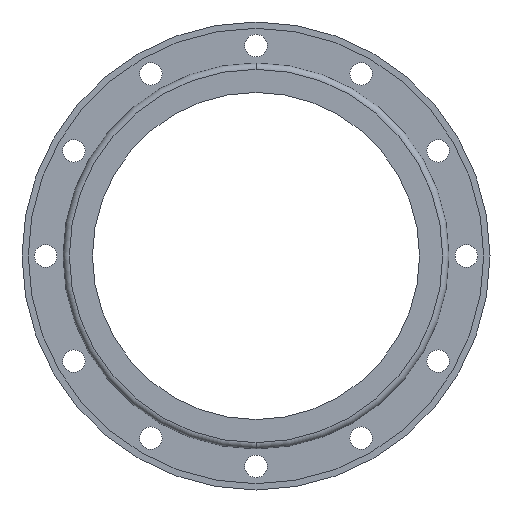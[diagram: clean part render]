
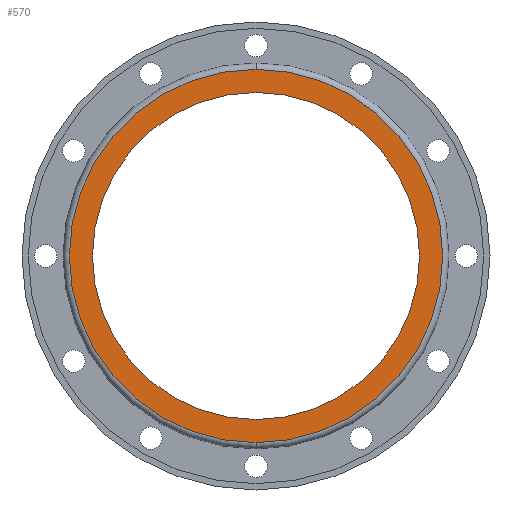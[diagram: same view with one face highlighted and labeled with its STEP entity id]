
A CAD part, front view. The second image highlights one B-rep face of the part: STEP entity #570.
In plain terms, the highlighted planar face has unit normal (0, -1, 0).
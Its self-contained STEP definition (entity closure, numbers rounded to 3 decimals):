
#15 = AXIS2_PLACEMENT_3D ( 'NONE', #30, #156, #491 ) ;
#30 = CARTESIAN_POINT ( 'NONE',  ( 0., 0., 0. ) ) ;
#145 = PLANE ( 'NONE',  #1191 ) ;
#156 = DIRECTION ( 'NONE',  ( 0., 1., 0. ) ) ;
#219 = CIRCLE ( 'NONE', #1052, 155.5 ) ;
#225 = VERTEX_POINT ( 'NONE', #1154 ) ;
#266 = CARTESIAN_POINT ( 'NONE',  ( 0., 0., 0. ) ) ;
#406 = CARTESIAN_POINT ( 'NONE',  ( 0., 0., 0. ) ) ;
#476 = ORIENTED_EDGE ( 'NONE', *, *, #1077, .T. ) ;
#491 = DIRECTION ( 'NONE',  ( 0., 0., 1. ) ) ;
#558 = VERTEX_POINT ( 'NONE', #1304 ) ;
#570 = ADVANCED_FACE ( 'NONE', ( #744, #719 ), #145, .T. ) ;
#572 = CARTESIAN_POINT ( 'NONE',  ( 0., 0., 155.5 ) ) ;
#683 = CIRCLE ( 'NONE', #866, 177.5 ) ;
#693 = CIRCLE ( 'NONE', #15, 177.5 ) ;
#694 = ORIENTED_EDGE ( 'NONE', *, *, #766, .F. ) ;
#719 = FACE_OUTER_BOUND ( 'NONE', #1262, .T. ) ;
#744 = FACE_BOUND ( 'NONE', #989, .T. ) ;
#766 = EDGE_CURVE ( 'NONE', #225, #1507, #683, .T. ) ;
#847 = DIRECTION ( 'NONE',  ( 0., 1., 0. ) ) ;
#866 = AXIS2_PLACEMENT_3D ( 'NONE', #1213, #847, #1066 ) ;
#877 = ORIENTED_EDGE ( 'NONE', *, *, #959, .T. ) ;
#954 = DIRECTION ( 'NONE',  ( 0., 1., 0. ) ) ;
#959 = EDGE_CURVE ( 'NONE', #1110, #558, #979, .T. ) ;
#967 = DIRECTION ( 'NONE',  ( 0., -1., 0. ) ) ;
#979 = CIRCLE ( 'NONE', #1224, 155.5 ) ;
#989 = EDGE_LOOP ( 'NONE', ( #877, #476 ) ) ;
#1052 = AXIS2_PLACEMENT_3D ( 'NONE', #266, #954, #1516 ) ;
#1066 = DIRECTION ( 'NONE',  ( 0., 0., 1. ) ) ;
#1077 = EDGE_CURVE ( 'NONE', #558, #1110, #219, .T. ) ;
#1110 = VERTEX_POINT ( 'NONE', #572 ) ;
#1154 = CARTESIAN_POINT ( 'NONE',  ( 0., 0., -177.5 ) ) ;
#1176 = DIRECTION ( 'NONE',  ( 0., 0., -1. ) ) ;
#1187 = CARTESIAN_POINT ( 'NONE',  ( -177.5, 0., 0. ) ) ;
#1191 = AXIS2_PLACEMENT_3D ( 'NONE', #1187, #967, #1176 ) ;
#1213 = CARTESIAN_POINT ( 'NONE',  ( 0., 0., 0. ) ) ;
#1224 = AXIS2_PLACEMENT_3D ( 'NONE', #406, #1340, #1349 ) ;
#1262 = EDGE_LOOP ( 'NONE', ( #1351, #694 ) ) ;
#1304 = CARTESIAN_POINT ( 'NONE',  ( 0., 0., -155.5 ) ) ;
#1308 = CARTESIAN_POINT ( 'NONE',  ( 0., 0., 177.5 ) ) ;
#1340 = DIRECTION ( 'NONE',  ( 0., 1., 0. ) ) ;
#1349 = DIRECTION ( 'NONE',  ( 0., 0., 1. ) ) ;
#1351 = ORIENTED_EDGE ( 'NONE', *, *, #1373, .F. ) ;
#1373 = EDGE_CURVE ( 'NONE', #1507, #225, #693, .T. ) ;
#1507 = VERTEX_POINT ( 'NONE', #1308 ) ;
#1516 = DIRECTION ( 'NONE',  ( 0., 0., 1. ) ) ;
